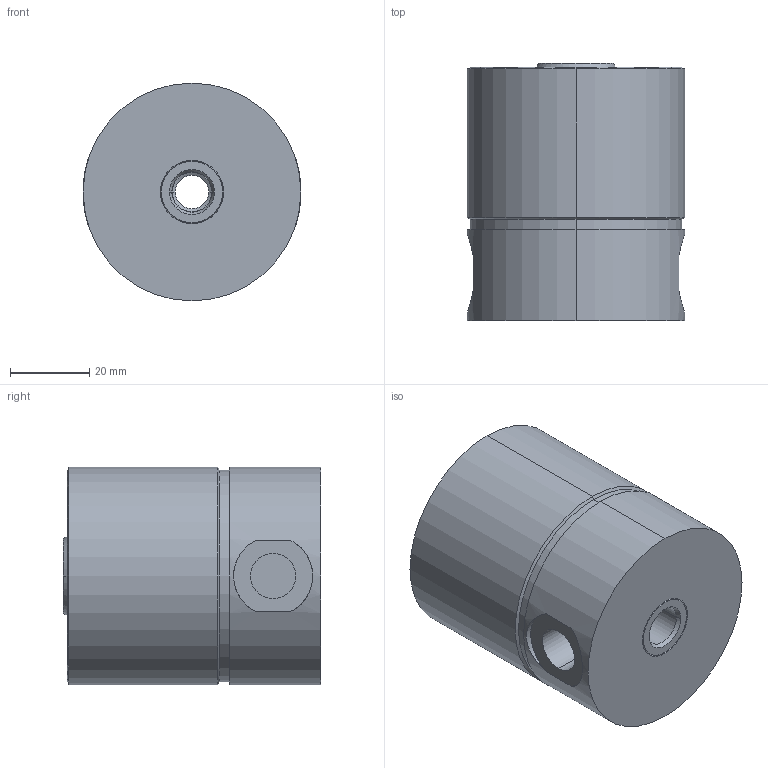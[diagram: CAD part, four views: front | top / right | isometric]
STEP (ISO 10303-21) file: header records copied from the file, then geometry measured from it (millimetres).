
FILE_DESCRIPTION (( 'STEP AP203' ), '1' );
FILE_NAME ('GERMA_Hohlkolbenzylinder_82-61-2-1.STEP', '2016-01-03T17:37:34', ( '' ), ( '' ), 'SwSTEP 2.0', 'SolidWorks 2015', '' );
FILE_SCHEMA (( 'CONFIG_CONTROL_DESIGN' ));
Length unit declared in the file: millimetre
Products named in the file (3): Gehaeuse 82-61-2_Geh„use; Kolben 82-61-X-1_Kolben; GERMA_Hohlkolbenzylinder_82-61-2-1
Assembly tree (2 placements, depth 2):
  GERMA_Hohlkolbenzylinder_82-61-2-1
    Gehaeuse 82-61-2_Geh„use
    Kolben 82-61-X-1_Kolben
Bounding box: 55 x 65 x 55 mm (x, y, z)
Volume: 138215.5 mm3; surface area: 29879.7 mm2
Topology: 2 solids, 2 shells, 78 faces, 160 edges, 98 vertices
Faces by surface type: cylinder 38, cone 22, plane 18
Entity records: 2469 total; most frequent: CARTESIAN_POINT 453, DIRECTION 410, ORIENTED_EDGE 312, AXIS2_PLACEMENT_3D 175, EDGE_CURVE 156, VERTEX_POINT 98, EDGE_LOOP 98, CIRCLE 92
